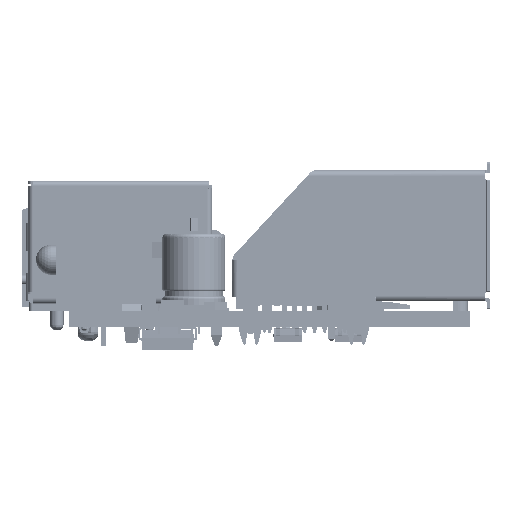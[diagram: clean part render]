
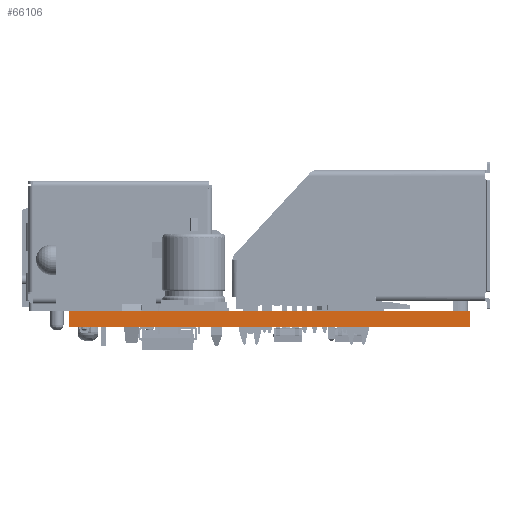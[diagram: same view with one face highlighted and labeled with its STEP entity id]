
A CAD part, left-side view. The second image highlights one B-rep face of the part: STEP entity #66106.
In plain terms, the highlighted planar face has unit normal (-1, 0, 0).
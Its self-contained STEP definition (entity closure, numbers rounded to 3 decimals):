
#6538=FACE_OUTER_BOUND('',#10018,.T.);
#10018=EDGE_LOOP('',(#44689,#44690,#44691,#44692));
#14095=LINE('',#93300,#21608);
#14103=LINE('',#93316,#21616);
#14105=LINE('',#93319,#21618);
#14106=LINE('',#93320,#21619);
#21608=VECTOR('',#75337,1.);
#21616=VECTOR('',#75349,1.);
#21618=VECTOR('',#75353,1.);
#21619=VECTOR('',#75354,1.);
#29121=VERTEX_POINT('',#93298);
#29122=VERTEX_POINT('',#93299);
#29127=VERTEX_POINT('',#93313);
#29128=VERTEX_POINT('',#93315);
#35220=EDGE_CURVE('',#29121,#29122,#14095,.T.);
#35228=EDGE_CURVE('',#29127,#29128,#14103,.T.);
#35230=EDGE_CURVE('',#29127,#29121,#14105,.T.);
#35231=EDGE_CURVE('',#29128,#29122,#14106,.T.);
#44689=ORIENTED_EDGE('',*,*,#35228,.F.);
#44690=ORIENTED_EDGE('',*,*,#35230,.T.);
#44691=ORIENTED_EDGE('',*,*,#35220,.T.);
#44692=ORIENTED_EDGE('',*,*,#35231,.F.);
#63594=PLANE('',#70109);
#66106=ADVANCED_FACE('',(#6538),#63594,.F.);
#70109=AXIS2_PLACEMENT_3D('',#93318,#75351,#75352);
#75337=DIRECTION('',(0.,0.,1.));
#75349=DIRECTION('',(0.,0.,1.));
#75351=DIRECTION('center_axis',(1.,0.,0.));
#75352=DIRECTION('ref_axis',(0.,-1.,0.));
#75353=DIRECTION('',(0.,-1.,0.));
#75354=DIRECTION('',(0.,-1.,0.));
#93298=CARTESIAN_POINT('',(-77.5,-20.,0.));
#93299=CARTESIAN_POINT('',(-77.5,-20.,1.599));
#93300=CARTESIAN_POINT('',(-77.5,-20.,0.));
#93313=CARTESIAN_POINT('',(-77.5,20.,0.));
#93315=CARTESIAN_POINT('',(-77.5,20.,1.599));
#93316=CARTESIAN_POINT('',(-77.5,20.,0.));
#93318=CARTESIAN_POINT('Origin',(-77.5,20.,0.));
#93319=CARTESIAN_POINT('',(-77.5,20.,0.));
#93320=CARTESIAN_POINT('',(-77.5,20.,1.599));
